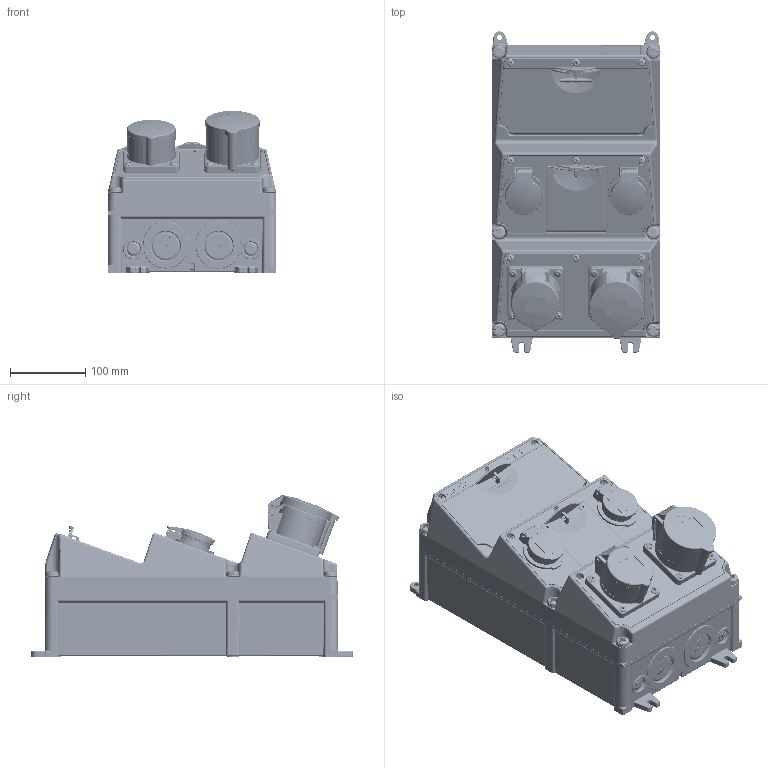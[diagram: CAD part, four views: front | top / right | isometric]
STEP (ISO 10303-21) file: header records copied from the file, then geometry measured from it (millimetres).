
FILE_DESCRIPTION((''),'2;1');
FILE_NAME('930278SW-0_ASM_1_ASM','2018-07-13T',('kremer'),('MENNEKES'),'PRO/ENGINEER BY PARAMETRIC TECHNOLOGY CORPORATION, 2015440','PRO/ENGINEER BY PARAMETRIC TECHNOLOGY CORPORATION, 2015440','');
FILE_SCHEMA(('AUTOMOTIVE_DESIGN { 1 0 10303 214 1 1 1 1 }'));
Products named in the file (16): 3-4_SW_O_SCHWARZ_1; MANIFOLD_SOLID_BREP_231341; MANIFOLD_SOLID_BREP_319704; MANIFOLD_SOLID_BREP_320041; MANIFOLD_SOLID_BREP_322520; FI_4POL_4TE_1_ASM; LS_3POL_3TE_1; LS_1POL_1TE_1; MP_LEER_SCHWARZ_1; MP_FEN4_44_OBEN_SCHWARZ_1; MP_FEN10_44_OBEN_SCHWARZ_1; BAUTEIL_DUMMY__1; FL75X75_CEE_32_5_44_VT_SCHWARZ_; FL75X75_CEE_16_5_44_VT_SCHWARZ_; AMAXX_SCHUKO_44_SCHWARZ_1; 930278SW-0_ASM_1_ASM
Assembly tree (18 placements, depth 3):
  930278SW-0_ASM_1_ASM
    3-4_SW_O_SCHWARZ_1
    FI_4POL_4TE_1_ASM
      MANIFOLD_SOLID_BREP_231341
      MANIFOLD_SOLID_BREP_319704
      MANIFOLD_SOLID_BREP_320041
      MANIFOLD_SOLID_BREP_322520
    LS_3POL_3TE_1  x2
    LS_1POL_1TE_1  x2
    MP_LEER_SCHWARZ_1
    MP_FEN4_44_OBEN_SCHWARZ_1
    MP_FEN10_44_OBEN_SCHWARZ_1
    BAUTEIL_DUMMY__1
    FL75X75_CEE_32_5_44_VT_SCHWARZ_
    FL75X75_CEE_16_5_44_VT_SCHWARZ_
    AMAXX_SCHUKO_44_SCHWARZ_1  x2
Bounding box: 225 x 428.2 x 215.85 mm (x, y, z)
Volume: 9548065.1 mm3; surface area: 1137075.2 mm2
Topology: 16 solids, 16 shells, 14662 faces, 40762 edges, 26108 vertices
Faces by surface type: plane 7352, cylinder 3914, torus 1220, bspline 1143, cone 502, sphere 338, extrusion 193
Entity records: 612754 total; most frequent: CARTESIAN_POINT 161699, ORIENTED_EDGE 70770, DIRECTION 62926, EDGE_CURVE 35385, PRESENTATION_STYLE_ASSIGNMENT 28239, STYLED_ITEM 25066, VERTEX_POINT 22712, AXIS2_PLACEMENT_3D 21784
